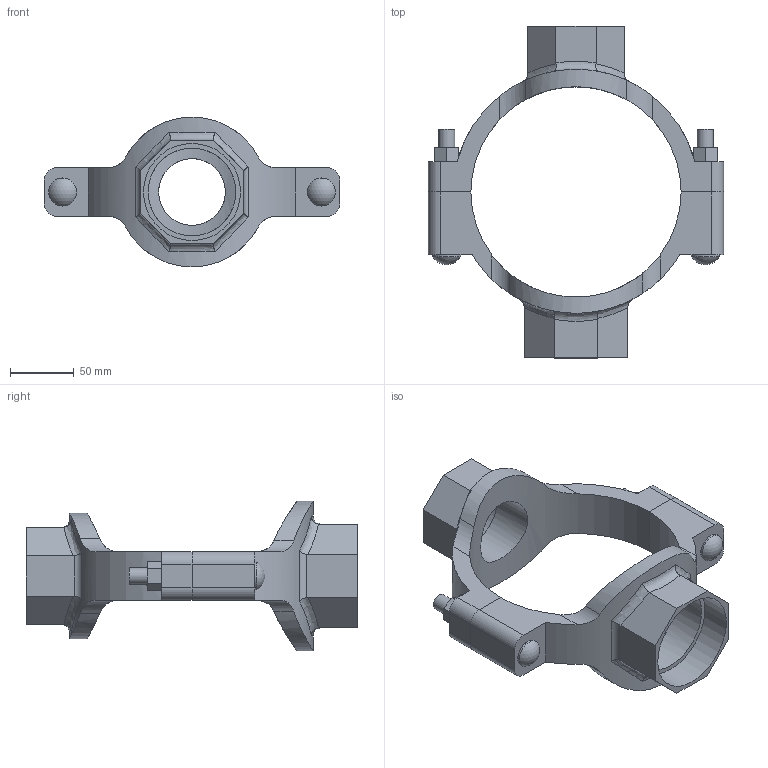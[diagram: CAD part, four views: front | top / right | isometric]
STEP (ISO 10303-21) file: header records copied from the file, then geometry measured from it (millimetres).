
FILE_DESCRIPTION(/* description */ ('VIC MECH-T BRANCH OUTLET CROSS STYLE 920N (THD)','CAx-IF Rec.Pracs.---Representation and Presentation of Product Manufacturing Information (PMI)---4.0---2014-10-13'),/* implementation_level */ '2;1');
FILE_NAME(/* name */ 'C:\Users\Vjadhav\AppData\Roaming\Autodesk\ApplicationPlugins\Back Up\Victaulic_IPS_Mechanical-Cross Outlet_Style 920N (FPT)\Victaulic_IPS_Mechanical-Cross Outlet_06.0 (165.1)x02.0x02.5 (76.1) (150x50x65).stp',/* time_stamp */ '2020-08-06T19:00:13+06:00',/* author */ ('Vjadhav'),/* organization */ ('Victaulic'),/* preprocessor_version */ 'ST-DEVELOPER v17.2',/* originating_system */ 'Autodesk Inventor 2019',/* authorisation */ '');
FILE_SCHEMA (('AP242_MANAGED_MODEL_BASED_3D_ENGINEERING_MIM_LF { 1 0 10303 442 1 1 4 }'));
Length unit declared in the file: inch
Products named in the file (3): 920NT-06.0 (165.1)x02.0x02.5 (76.1); 920NT-06.0 (165.1)x02.0x02.5 (76.1)_1; 920T-06.0 (165.1)x02.5 (76.1)
Assembly tree (2 placements, depth 2):
  920NT-06.0 (165.1)x02.0x02.5 (76.1)
    920NT-06.0 (165.1)x02.0x02.5 (76.1)_1
    920T-06.0 (165.1)x02.5 (76.1)
Bounding box: 231.9 x 260.6 x 117.47 mm (x, y, z)
Volume: 601494 mm3; surface area: 141396.9 mm2
Topology: 2 solids, 2 shells, 130 faces, 344 edges, 232 vertices
Faces by surface type: plane 68, cylinder 48, bspline 8, torus 4, sphere 2
Full cylindrical faces by diameter (mm): 12.7 x4, 21.982 x2, 52.387 x1, 60.325 x1, 68.986 x1, 76.2 x1
Entity records: 5124 total; most frequent: CARTESIAN_POINT 1665, ORIENTED_EDGE 688, DIRECTION 638, EDGE_CURVE 344, VERTEX_POINT 232, AXIS2_PLACEMENT_3D 227, LINE 184, VECTOR 184
